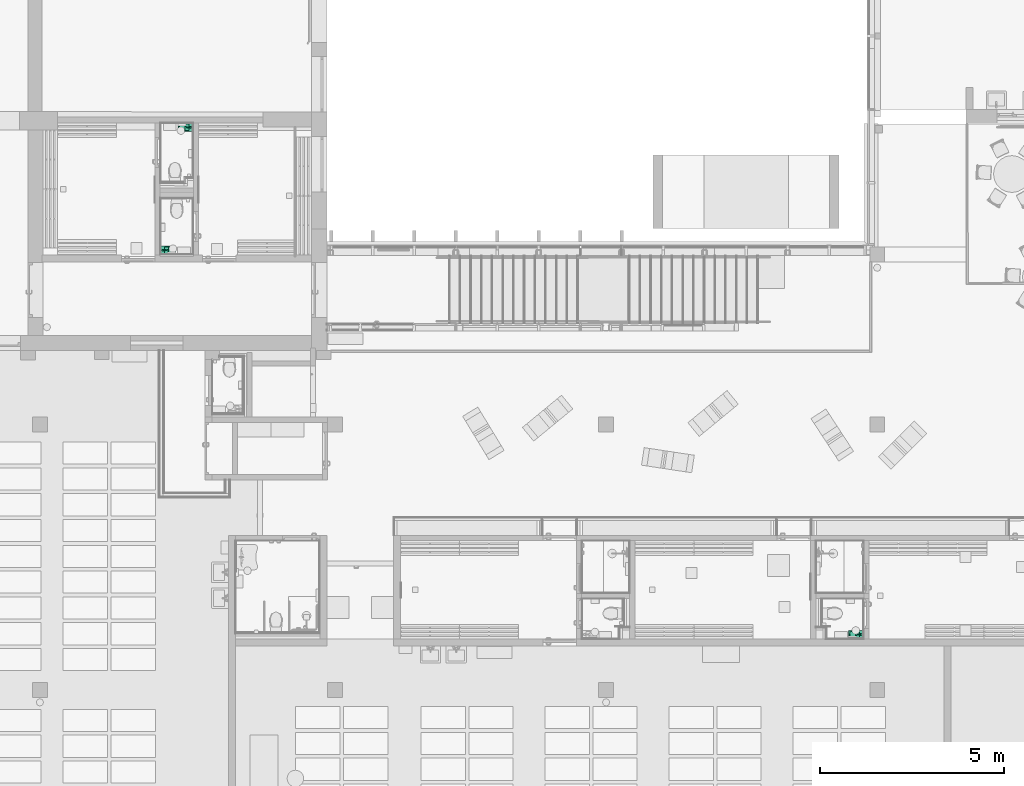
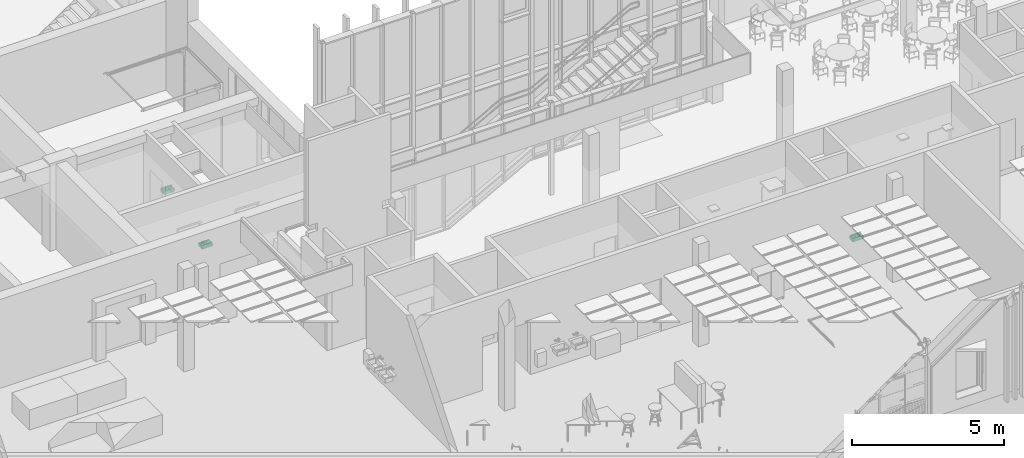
# One storey, part 258 of 301: 3 flow terminals.
"""IFC2X3 building model written with IfcOpenShell, lengths in millimetres."""

from ifc_helpers import new_model, entity, si_unit, converted_unit, derived_unit, money_unit, direction, frame, origin_with_axes, place, context, subcontext, project, spatial, open_shell, faceted_brep, surface_model, source, transform, mapped, type_object, element, save


model = new_model("IFC2X3")

# Units and contexts
model_context = context("Model", 3, precision=0.01, world=origin_with_axes(), true_north=direction((0.0, 1.0)))
body_context = subcontext(model_context, "Body", "Model", "MODEL_VIEW")
ifc_project = project(units=[si_unit("LENGTHUNIT", "METRE", prefix="MILLI"), si_unit("AREAUNIT", "SQUARE_METRE"), si_unit("VOLUMEUNIT", "CUBIC_METRE"), converted_unit("PLANEANGLEUNIT", "DEGREE", entity("IfcPlaneAngleMeasure", 0.0174532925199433), si_unit("PLANEANGLEUNIT", "RADIAN"), dimensions=[0, 0, 0, 0, 0, 0, 0]), money_unit("EUR"), converted_unit("TIMEUNIT", "Year", entity("IfcTimeMeasure", 31557600.0), si_unit("TIMEUNIT", "SECOND"), dimensions=[0, 0, 1, 0, 0, 0, 0]), si_unit("MASSUNIT", "GRAM", prefix="KILO"), si_unit("THERMODYNAMICTEMPERATUREUNIT", "DEGREE_CELSIUS"), si_unit("LUMINOUSINTENSITYUNIT", "LUMEN"), si_unit("ENERGYUNIT", "JOULE", prefix="MEGA"), derived_unit("THERMALCONDUCTANCEUNIT", [(si_unit("POWERUNIT", "WATT"), 1), (si_unit("LENGTHUNIT", "METRE"), -1), (si_unit("THERMODYNAMICTEMPERATUREUNIT", "KELVIN"), -1)]), derived_unit("SPECIFICHEATCAPACITYUNIT", [(si_unit("ENERGYUNIT", "JOULE"), 1), (si_unit("MASSUNIT", "GRAM", prefix="KILO"), -1), (si_unit("THERMODYNAMICTEMPERATUREUNIT", "KELVIN"), -1)]), derived_unit("MASSDENSITYUNIT", [(si_unit("MASSUNIT", "GRAM", prefix="KILO"), 1), (si_unit("VOLUMEUNIT", "CUBIC_METRE"), -1)])], contexts=[model_context])

# Site, building, storey
site_placement = place(None, frame((0.0, 0.0, 8650.0), z_axis=(0.0, 0.0, 1.0), x_axis=(1.0, 0.0, 0.0)))
site = spatial("IfcSite", under=ifc_project, at=site_placement, Name="43301:001:0844", CompositionType="ELEMENT")
building_placement = place(site_placement, origin_with_axes())
building = spatial("IfcBuilding", under=site, at=building_placement, Name="Kuressaare Ametikooli tuulikute mehaanikute õppekorpus", CompositionType="ELEMENT")
storey_placement = place(building_placement, origin_with_axes())
storey = spatial("IfcBuildingStorey", under=building, at=storey_placement, Name="1.korrus", CompositionType="ELEMENT", Elevation=0.0)

# Flow terminals
sanitary_terminal_type = type_object("IfcSanitaryTerminalType", Name="Basin 27", PredefinedType="NOTDEFINED")
shared_shape = source(origin_with_axes(), body_context, "Body", "SurfaceModel", [
    faceted_brep([(-100.0, -400.0, 865.0), (-107.5, -397.9903810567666, 865.0), (-112.9903810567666, -392.5, 865.0), (-115.0, -385.0, 865.0), (-115.0, -14.99999999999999, 865.0), (-112.9903810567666, -7.500000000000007, 865.0), (-107.5, -2.009618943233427, 865.0), (-100.0, 0.0, 865.0), (100.0, 0.0, 865.0), (107.5, -2.009618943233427, 865.0), (112.9903810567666, -7.500000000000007, 865.0), (115.0, -14.99999999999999, 865.0), (115.0, -385.0, 865.0), (112.9903810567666, -392.5, 865.0), (107.5, -397.9903810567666, 865.0), (100.0, -400.0, 865.0), (85.0, -370.0, 865.0), (85.0, -110.0, 865.0), (-85.0, -110.0, 865.0), (-85.0, -370.0, 865.0), (-100.0000003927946, -400.0000003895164, 995.0), (-107.4999997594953, -397.9903813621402, 995.0), (-112.9903810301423, -392.5000000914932, 995.0), (-115.0000000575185, -384.99999979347, 995.0), (-115.0000000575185, -14.99999968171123, 995.0), (-112.9903810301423, -7.500000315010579, 995.0), (-107.4999997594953, -2.009619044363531, 995.0), (-100.0000003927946, -1.698735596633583e-08, 995.0), (99.99999979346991, -1.698735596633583e-08, 995.0), (107.5000000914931, -2.009619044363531, 995.0), (112.9903813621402, -7.500000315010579, 995.0), (115.0000003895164, -14.99999968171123, 995.0), (115.0000003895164, -384.99999979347, 995.0), (112.9903813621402, -392.5000000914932, 995.0), (107.5000000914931, -397.9903813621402, 995.0), (99.99999979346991, -400.0000003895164, 995.0), (85.0, -110.0, 999.9999996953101), (85.0, -370.0, 999.9999996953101), (-85.0, -110.0, 999.9999996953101), (-85.0, -370.0, 999.9999996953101), (-99.97757064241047, -399.8296295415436, 996.2940952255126), (-107.4118093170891, -397.8376310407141, 996.2940952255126), (-112.8376307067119, -392.4118096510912, 996.2940952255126), (-114.8296292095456, -384.9775700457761, 996.2940952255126), (-114.8296292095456, -15.02242943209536, 996.2940952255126), (-112.8376307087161, -7.588190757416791, 996.2940952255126), (-107.4118093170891, -2.162369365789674, 996.2940952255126), (-99.97757064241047, -0.1703708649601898, 996.2940952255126), (99.97757004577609, -0.1703708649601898, 996.2940952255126), (107.4118096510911, -2.162369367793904, 996.2940952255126), (112.837631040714, -7.588190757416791, 996.2940952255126), (114.8296295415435, -15.02242943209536, 996.2940952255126), (114.8296295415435, -384.9775700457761, 996.2940952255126), (112.8376310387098, -392.4118096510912, 996.2940952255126), (107.4118096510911, -397.8376310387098, 996.2940952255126), (99.97757004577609, -399.8296295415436, 996.2940952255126), (99.34173767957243, -4.999997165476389, 999.9999996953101), (-99.34173819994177, -4.999997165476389, 999.9999996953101), (-104.9118107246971, -6.492493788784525, 999.9999996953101), (-108.5075062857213, -10.08818934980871, 999.9999996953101), (-110.0000029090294, -15.65826187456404, 999.9999996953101), (-110.0000029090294, -384.3417376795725, 999.9999996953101), (-108.5075062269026, -389.9118111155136, 999.9999996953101), (-104.9118107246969, -393.5075066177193, 999.9999996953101), (-99.34173819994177, -395.0000032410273, 999.9999996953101), (99.34173767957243, -395.0000032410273, 999.9999996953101), (104.9118111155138, -393.5075065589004, 999.9999996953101), (108.5075065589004, -389.9118111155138, 999.9999996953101), (110.0000032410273, -384.3417376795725, 999.9999996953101), (110.0000032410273, -15.65826187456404, 999.9999996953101), (108.5075066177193, -10.08818934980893, 999.9999996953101), (104.9118111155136, -6.492493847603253, 999.9999996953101), (-99.80719978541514, -398.5355345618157, 998.5355339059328), (-106.741936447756, -396.6773772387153, 998.5355339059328), (-111.6773768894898, -391.7419367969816, 998.5355339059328), (-113.5355342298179, -384.807199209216, 998.5355339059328), (-113.5355342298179, -15.1928002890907, 998.5355339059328), (-111.6773769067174, -8.258063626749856, 998.5355339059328), (-106.741936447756, -3.322623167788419, 998.5355339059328), (-99.80719978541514, -1.464465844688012, 998.5355339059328), (99.80719920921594, -1.464465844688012, 998.5355339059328), (106.7419367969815, -3.322623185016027, 998.5355339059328), (111.6773772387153, -8.258063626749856, 998.5355339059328), (113.5355345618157, -15.1928002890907, 998.5355339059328), (113.5355345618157, -384.807199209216, 998.5355339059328), (111.6773772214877, -391.7419367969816, 998.5355339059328), (106.7419367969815, -396.6773772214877, 998.5355339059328), (99.80719920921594, -398.5355345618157, 998.5355339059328), (99.51210824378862, -3.70590425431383, 999.8296291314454), (-99.5121087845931, -3.70590425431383, 999.8296291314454), (-105.581682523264, -5.332241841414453, 999.8296291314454), (-109.6677582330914, -9.41831755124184, 999.8296291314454), (-111.294095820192, -15.48789128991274, 999.8296291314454), (-111.294095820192, -384.5121082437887, 999.8296291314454), (-109.667758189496, -390.5816828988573, 999.8296291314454), (-105.581682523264, -394.6677585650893, 999.8296291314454), (-99.5121087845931, -396.2940961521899, 999.8296291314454), (99.51210824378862, -396.2940961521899, 999.8296291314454), (105.5816828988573, -394.667758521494, 999.8296291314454), (109.6677585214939, -390.5816828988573, 999.8296291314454), (111.2940961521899, -384.5121082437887, 999.8296291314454), (111.2940961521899, -15.48789128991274, 999.8296291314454), (109.6677585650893, -9.41831755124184, 999.8296291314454), (105.5816828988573, -5.332241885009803, 999.8296291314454)], [[[0, 1, 2, 3, 4, 5, 6, 7, 8, 9, 10, 11, 12, 13, 14, 15], [16, 17, 18, 19]], [[1, 0, 20, 21]], [[2, 1, 21, 22]], [[3, 2, 22, 23]], [[4, 3, 23, 24]], [[5, 4, 24, 25]], [[6, 5, 25, 26]], [[7, 6, 26, 27]], [[8, 7, 27, 28]], [[9, 8, 28, 29]], [[10, 9, 29, 30]], [[11, 10, 30, 31]], [[12, 11, 31, 32]], [[13, 12, 32, 33]], [[14, 13, 33, 34]], [[15, 14, 34, 35]], [[0, 15, 35, 20]], [[36, 17, 16, 37]], [[38, 18, 17, 36]], [[39, 19, 18, 38]], [[37, 16, 19, 39]], [[21, 20, 40, 41]], [[22, 21, 41, 42]], [[23, 22, 42, 43]], [[24, 23, 43, 44]], [[25, 24, 44, 45]], [[26, 25, 45, 46]], [[27, 26, 46, 47]], [[28, 27, 47, 48]], [[29, 28, 48, 49]], [[30, 29, 49, 50]], [[31, 30, 50, 51]], [[32, 31, 51, 52]], [[33, 32, 52, 53]], [[34, 33, 53, 54]], [[35, 34, 54, 55]], [[20, 35, 55, 40]], [[56, 57, 58, 59, 60, 61, 62, 63, 64, 65, 66, 67, 68, 69, 70, 71], [37, 39, 38, 36]], [[41, 40, 72, 73]], [[42, 41, 73, 74]], [[43, 42, 74, 75]], [[44, 43, 75, 76]], [[45, 44, 76, 77]], [[46, 45, 77, 78]], [[47, 46, 78, 79]], [[48, 47, 79, 80]], [[49, 48, 80, 81]], [[50, 49, 81, 82]], [[51, 50, 82, 83]], [[52, 51, 83, 84]], [[53, 52, 84, 85]], [[54, 53, 85, 86]], [[55, 54, 86, 87]], [[40, 55, 87, 72]], [[88, 89, 57, 56]], [[89, 90, 58, 57]], [[90, 91, 59, 58]], [[91, 92, 60, 59]], [[92, 93, 61, 60]], [[93, 94, 62, 61]], [[94, 95, 63, 62]], [[95, 96, 64, 63]], [[96, 97, 65, 64]], [[97, 98, 66, 65]], [[98, 99, 67, 66]], [[99, 100, 68, 67]], [[100, 101, 69, 68]], [[101, 102, 70, 69]], [[102, 103, 71, 70]], [[103, 88, 56, 71]], [[73, 72, 96, 95]], [[74, 73, 95, 94]], [[75, 74, 94, 93]], [[76, 75, 93, 92]], [[77, 76, 92, 91]], [[78, 77, 91, 90]], [[79, 78, 90, 89]], [[80, 79, 89, 88]], [[81, 80, 88, 103]], [[82, 81, 103, 102]], [[83, 82, 102, 101]], [[84, 83, 101, 100]], [[85, 84, 100, 99]], [[86, 85, 99, 98]], [[87, 86, 98, 97]], [[72, 87, 97, 96]]]),
    faceted_brep([(85.0, -370.0, 865.0), (-85.0, -370.0, 865.0), (-85.0, -110.0, 865.0), (85.0, -110.0, 865.0), (-12.49999999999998, -210.733635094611, 865.0), (0.0, -214.083, 865.0), (12.50000000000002, -210.733635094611, 865.0), (21.65063509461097, -201.583, 865.0), (25.0, -189.083, 865.0), (21.65063509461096, -176.583, 865.0), (12.49999999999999, -167.4323649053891, 865.0), (0.0, -164.083, 865.0), (-12.50000000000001, -167.4323649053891, 865.0), (-21.65063509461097, -176.583, 865.0), (-25.0, -189.083, 865.0), (-21.65063509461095, -201.583, 865.0), (42.5, -370.0, 1000.0), (28.33333333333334, -370.0, 1000.0), (14.16666666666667, -370.0, 1000.0), (0.0, -370.0, 1000.0), (-14.16666666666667, -370.0, 1000.0), (-28.33333333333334, -370.0, 1000.0), (-42.49999999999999, -370.0, 1000.0), (-56.66666666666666, -370.0, 1000.0), (-70.83333333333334, -370.0, 1000.0), (-85.0, -370.0, 1000.0), (85.0, -370.0, 1000.0), (70.83333333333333, -370.0, 1000.0), (56.66666666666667, -370.0, 1000.0), (-85.0, -214.0, 972.2499999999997), (-85.0, -162.0, 972.2499999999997), (-85.0, -110.0, 972.2499999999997), (-85.0, -318.0, 1000.0), (-85.0, -266.0, 999.9999999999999), (-42.49999999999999, -110.0, 911.2166184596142), (-28.33333333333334, -110.0, 904.7939613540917), (-14.16666666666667, -110.0, 901.173124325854), (0.0, -110.0, 900.0), (14.16666666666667, -110.0, 901.173124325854), (28.33333333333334, -110.0, 904.7939613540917), (42.5, -110.0, 911.2166184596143), (56.66666666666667, -110.0, 921.2681999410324), (70.83333333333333, -110.0, 937.133628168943), (85.0, -110.0, 972.25), (-70.83333333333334, -110.0, 937.1336281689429), (-56.66666666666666, -110.0, 921.2681999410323), (85.0, -266.0, 1000.0), (85.0, -318.0, 1000.0), (85.0, -162.0, 972.25), (85.0, -214.0, 972.25), (-0.3097602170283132, -214.0, 900.0256508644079), (0.0, -214.083, 900.0751753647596), (-12.49999999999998, -210.733635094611, 901.0351096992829), (0.02107381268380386, -214.0773532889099, 900.0716455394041), (0.3097602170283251, -214.0, 900.0256508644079), (12.50000000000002, -210.733635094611, 901.035109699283), (14.16666666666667, -209.0669684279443, 901.173124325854), (21.65063509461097, -201.583, 903.0859405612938), (25.0, -189.083, 903.9419997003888), (21.65063509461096, -176.583, 903.0859405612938), (12.49999999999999, -167.4323649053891, 901.035109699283), (14.16666666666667, -169.0990315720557, 901.173124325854), (0.0, -164.083, 900.0), (-12.50000000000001, -167.4323649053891, 901.035109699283), (-21.65063509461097, -176.583, 903.0859405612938), (-14.16666666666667, -169.0990315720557, 901.173124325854), (-25.0, -189.083, 903.9419997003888), (-21.65063509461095, -201.583, 903.0859405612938), (-14.16666666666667, -209.0669684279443, 901.173124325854), (28.33333333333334, -318.0, 979.9130117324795), (14.16666666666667, -318.0, 978.1503189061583), (0.0, -318.0, 977.5667630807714), (-14.16666666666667, -318.0, 978.1503189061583), (-28.33333333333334, -318.0, 979.9130117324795), (-42.49999999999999, -318.0, 982.8921917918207), (-56.66666666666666, -318.0, 987.1546857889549), (-70.83333333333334, -318.0, 992.8049756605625), (70.83333333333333, -318.0, 992.8049756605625), (56.66666666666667, -318.0, 987.1546857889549), (42.5, -318.0, 982.8921917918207), (-70.83333333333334, -214.0, 937.1336281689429), (-70.83333333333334, -162.0, 937.1336281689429), (-70.83333333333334, -266.0, 978.92400992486), (-42.49999999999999, -162.0, 911.2166184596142), (-28.33333333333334, -162.0, 904.7939613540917), (-14.16666666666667, -162.0, 901.173124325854), (0.0, -162.0, 900.0), (14.16666666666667, -162.0, 901.173124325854), (28.33333333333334, -162.0, 904.7939613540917), (42.5, -162.0, 911.2166184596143), (56.66666666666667, -162.0, 921.2681999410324), (70.83333333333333, -162.0, 937.133628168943), (-56.66666666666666, -162.0, 921.2681999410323), (70.83333333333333, -266.0, 978.92400992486), (70.83333333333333, -214.0, 937.133628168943), (-14.16666666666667, -214.0, 901.173124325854), (0.0, -266.0, 947.0978188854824), (14.16666666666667, -266.0, 948.1630206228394), (14.16666666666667, -214.0, 901.173124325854), (28.33333333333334, -214.0, 904.7939613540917), (-28.33333333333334, -214.0, 904.7939613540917), (-56.66666666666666, -214.0, 921.2681999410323), (-42.49999999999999, -214.0, 911.2166184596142), (42.5, -214.0, 911.2166184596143), (56.66666666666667, -214.0, 921.2681999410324), (-14.16666666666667, -266.0, 948.1630206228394), (28.33333333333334, -266.0, 951.4339022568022), (-28.33333333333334, -266.0, 951.4339022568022), (-42.49999999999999, -266.0, 957.1657026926), (-56.66666666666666, -266.0, 965.9137620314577), (56.66666666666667, -266.0, 965.9137620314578), (42.5, -266.0, 957.1657026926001)], [[[0, 1, 2, 3], [4, 5, 6, 7, 8, 9, 10, 11, 12, 13, 14, 15]], [[16, 17, 18, 19, 20, 21, 22, 23, 24, 25, 1, 0, 26, 27, 28]], [[29, 30, 31, 2, 1, 25, 32, 33]], [[34, 35, 36, 37, 38, 39, 40, 41, 42, 43, 3, 2, 31, 44, 45]], [[46, 47, 26, 0, 3, 43, 48, 49]], [[50, 51, 5, 4, 52]], [[53, 54, 55, 6, 5, 51]], [[56, 57, 7, 6, 55]], [[58, 8, 7, 57]], [[59, 9, 8, 58]], [[60, 10, 9, 59, 61]], [[62, 11, 10, 60]], [[63, 12, 11, 62]], [[64, 13, 12, 63, 65]], [[66, 14, 13, 64]], [[67, 15, 14, 66]], [[68, 52, 4, 15, 67]], [[16, 69, 17]], [[17, 70, 18]], [[18, 71, 19]], [[19, 72, 20]], [[20, 73, 21]], [[21, 74, 22]], [[22, 75, 23]], [[23, 76, 24]], [[24, 32, 25]], [[26, 77, 27]], [[27, 78, 28]], [[28, 79, 16]], [[29, 80, 81, 30]], [[30, 81, 44, 31]], [[76, 33, 32]], [[82, 29, 33]], [[83, 84, 35, 34]], [[84, 85, 36, 35]], [[85, 86, 37, 36]], [[86, 87, 38, 37]], [[87, 88, 39, 38]], [[88, 89, 40, 39]], [[89, 90, 41, 40]], [[90, 91, 42, 41]], [[91, 48, 43, 42]], [[81, 92, 45, 44]], [[92, 83, 34, 45]], [[47, 46, 93]], [[26, 47, 77]], [[94, 49, 48, 91]], [[46, 49, 94]], [[50, 95, 96, 51]], [[52, 68, 95, 50]], [[53, 97, 98, 54]], [[55, 54, 98, 56]], [[51, 96, 97, 53]], [[59, 58, 57, 56, 98, 99, 88, 87, 61]], [[60, 61, 87, 86, 62]], [[63, 62, 86, 85, 65]], [[65, 85, 84, 100, 95, 68, 67, 66, 64]], [[16, 79, 69]], [[17, 69, 70]], [[18, 70, 71]], [[19, 71, 72]], [[20, 72, 73]], [[21, 73, 74]], [[22, 74, 75]], [[23, 75, 76]], [[24, 76, 32]], [[27, 77, 78]], [[28, 78, 79]], [[82, 80, 29]], [[80, 101, 92, 81]], [[76, 82, 33]], [[102, 100, 84, 83]], [[99, 103, 89, 88]], [[103, 104, 90, 89]], [[104, 94, 91, 90]], [[101, 102, 83, 92]], [[46, 94, 93]], [[47, 93, 77]], [[96, 95, 105]], [[106, 98, 97]], [[70, 97, 96]], [[106, 99, 98]], [[105, 95, 100]], [[79, 106, 69]], [[69, 97, 70]], [[70, 96, 71]], [[71, 105, 72]], [[72, 107, 73]], [[73, 108, 74]], [[74, 109, 75]], [[75, 82, 76]], [[77, 110, 78]], [[78, 111, 79]], [[109, 80, 82]], [[109, 101, 80]], [[107, 100, 102]], [[111, 103, 99]], [[110, 104, 103]], [[93, 94, 104]], [[108, 102, 101]], [[77, 93, 110]], [[71, 96, 105]], [[69, 106, 97]], [[111, 99, 106]], [[105, 100, 107]], [[79, 111, 106]], [[72, 105, 107]], [[73, 107, 108]], [[74, 108, 109]], [[75, 109, 82]], [[78, 110, 111]], [[108, 101, 109]], [[107, 102, 108]], [[110, 103, 111]], [[93, 104, 110]]]),
    faceted_brep([(-21.65063509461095, -201.583, 900.0), (-25.0, -189.083, 900.0), (-21.65063509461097, -176.583, 900.0), (-12.50000000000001, -167.4323649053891, 900.0), (0.0, -164.083, 900.0), (12.49999999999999, -167.4323649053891, 900.0), (21.65063509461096, -176.583, 900.0), (25.0, -189.083, 900.0), (21.65063509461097, -201.583, 900.0), (12.50000000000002, -210.733635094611, 900.0), (0.0, -214.083, 900.0), (-12.49999999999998, -210.733635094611, 900.0), (-21.65063509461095, -201.583, 905.0), (-25.0, -189.083, 905.0), (-21.65063509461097, -176.583, 905.0), (-12.50000000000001, -167.4323649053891, 905.0), (0.0, -164.083, 905.0), (12.49999999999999, -167.4323649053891, 905.0), (21.65063509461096, -176.583, 905.0), (25.0, -189.083, 905.0), (21.65063509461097, -201.583, 905.0), (12.50000000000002, -210.733635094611, 905.0), (0.0, -214.083, 905.0), (-12.49999999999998, -210.733635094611, 905.0)], [[[0, 1, 2, 3, 4, 5, 6, 7, 8, 9, 10, 11]], [[0, 12, 13, 1]], [[1, 13, 14, 2]], [[2, 14, 15, 3]], [[3, 15, 16, 4]], [[4, 16, 17, 5]], [[5, 17, 18, 6]], [[6, 18, 19, 7]], [[7, 19, 20, 8]], [[8, 20, 21, 9]], [[9, 21, 22, 10]], [[10, 22, 23, 11]], [[11, 23, 12, 0]], [[12, 23, 22, 21, 20, 19, 18, 17, 16, 15, 14, 13]]]),
    surface_model("IfcShellBasedSurfaceModel", [(0.0, -189.083, 907.0), (6.310952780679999, -178.1521091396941, 906.4975737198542), (0.0, -176.46109443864, 906.4975737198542), (10.93089086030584, -182.77204721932, 906.4975737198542), (12.5, -167.4323649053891, 905.0), (0.0, -164.083, 905.0), (-6.310952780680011, -178.1521091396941, 906.4975737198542), (12.62190556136, -189.083, 906.4975737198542), (21.65063509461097, -176.583, 905.0), (-12.50000000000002, -167.4323649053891, 905.0), (-10.93089086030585, -182.77204721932, 906.4975737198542), (10.93089086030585, -195.39395278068, 906.4975737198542), (25.0, -189.083, 905.0), (-21.65063509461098, -176.583, 905.0), (-12.62190556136, -189.083, 906.4975737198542), (6.310952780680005, -200.0138908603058, 906.4975737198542), (21.65063509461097, -201.583, 905.0), (-25.0, -189.083, 905.0), (-10.93089086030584, -195.39395278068, 906.4975737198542), (0.0, -201.70490556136, 906.4975737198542), (12.50000000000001, -210.733635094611, 905.0), (-21.65063509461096, -201.583, 905.0), (-6.310952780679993, -200.0138908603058, 906.4975737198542), (0.0, -214.083, 905.0), (-12.49999999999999, -210.733635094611, 905.0)], [open_shell([[[0, 1, 2]], [[0, 3, 1]], [[1, 4, 5, 2]], [[0, 2, 6]], [[0, 7, 3]], [[3, 8, 4, 1]], [[2, 5, 9, 6]], [[0, 6, 10]], [[0, 11, 7]], [[7, 12, 8, 3]], [[6, 9, 13, 10]], [[0, 10, 14]], [[0, 15, 11]], [[11, 16, 12, 7]], [[10, 13, 17, 14]], [[0, 14, 18]], [[0, 19, 15]], [[15, 20, 16, 11]], [[14, 17, 21, 18]], [[0, 18, 22]], [[0, 22, 19]], [[19, 23, 20, 15]], [[18, 21, 24, 22]], [[22, 24, 23, 19]]])]),
    faceted_brep([(-12.50000000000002, -38.34936490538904, 1000.0), (-10.587322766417, -41.66221905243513, 1076.507089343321), (0.0, -38.79807692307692, 1075.961538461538), (0.0, -34.99999999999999, 1000.0), (-21.65063509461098, -47.50000000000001, 1000.0), (-18.27355038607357, -49.44976076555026, 1077.99043062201), (-21.0, -60.00000000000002, 1080.0), (-18.10034137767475, -70.45023696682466, 1081.990521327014), (-10.41410590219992, -78.03776053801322, 1083.435763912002), (0.0, -80.80188679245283, 1083.962264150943), (10.41410590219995, -78.0377605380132, 1083.435763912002), (18.10034137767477, -70.45023696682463, 1081.990521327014), (21.0, -59.99999999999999, 1080.0), (18.27355038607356, -49.44976076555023, 1077.99043062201), (10.58732276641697, -41.66221905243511, 1076.507089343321), (12.5, -38.34936490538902, 1000.0), (21.65063509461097, -47.49999999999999, 1000.0), (25.0, -59.99999999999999, 1000.0), (21.65063509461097, -72.5, 1000.0), (12.50000000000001, -81.65063509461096, 1000.0), (0.0, -84.99999999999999, 1000.0), (-12.49999999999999, -81.65063509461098, 1000.0), (-21.65063509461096, -72.50000000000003, 1000.0), (-25.0, -60.00000000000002, 1000.0)], [[[0, 1, 2, 3]], [[4, 5, 1, 0]], [[1, 5, 6, 7, 8, 9, 10, 11, 12, 13, 14, 2]], [[3, 2, 14, 15]], [[0, 3, 15, 16, 17, 18, 19, 20, 21, 22, 23, 4]], [[23, 6, 5, 4]], [[22, 7, 6, 23]], [[21, 8, 7, 22]], [[20, 9, 8, 21]], [[19, 10, 9, 20]], [[18, 11, 10, 19]], [[17, 12, 11, 18]], [[16, 13, 12, 17]], [[15, 14, 13, 16]]]),
    faceted_brep([(-9.000000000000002, -163.0, 1035.0), (-9.000000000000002, -163.0, 1045.0), (-7.794228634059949, -158.5, 1045.0), (-7.794228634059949, -158.5, 1035.0), (-7.794228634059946, -167.5, 1035.0), (-7.794228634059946, -167.5, 1045.0), (-4.499999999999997, -170.79422863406, 1045.0), (0.0, -172.0, 1045.0), (4.500000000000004, -170.79422863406, 1045.0), (7.794228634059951, -167.5, 1045.0), (9.000000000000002, -163.0, 1045.0), (7.794228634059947, -158.5, 1045.0), (4.499999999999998, -155.2057713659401, 1045.0), (0.0, -154.0, 1045.0), (-4.500000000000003, -155.2057713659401, 1045.0), (-4.500000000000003, -155.2057713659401, 1035.0), (0.0, -154.0, 1035.0), (4.499999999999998, -155.2057713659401, 1035.0), (7.794228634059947, -158.5, 1035.0), (9.000000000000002, -163.0, 1035.0), (7.794228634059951, -167.5, 1035.0), (4.500000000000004, -170.79422863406, 1035.0), (0.0, -172.0, 1035.0), (-4.499999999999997, -170.79422863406, 1035.0)], [[[0, 1, 2, 3]], [[4, 5, 1, 0]], [[1, 5, 6, 7, 8, 9, 10, 11, 12, 13, 14, 2]], [[3, 2, 14, 15]], [[0, 3, 15, 16, 17, 18, 19, 20, 21, 22, 23, 4]], [[23, 6, 5, 4]], [[22, 7, 6, 23]], [[21, 8, 7, 22]], [[20, 9, 8, 21]], [[19, 10, 9, 20]], [[18, 11, 10, 19]], [[17, 12, 11, 18]], [[16, 13, 12, 17]], [[15, 14, 13, 16]]]),
    faceted_brep([(12.87171762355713, -39.74369617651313, 1060.0), (-1.019988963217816e-06, -36.00002168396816, 1060.0), (-12.87171934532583, -39.74369727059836, 1060.0), (-21.72780617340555, -49.80679647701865, 1060.0), (-23.80539974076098, -63.04990202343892, 1060.0), (-10.912, -164.3883, 1060.0), (-9.02891689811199, -169.2831346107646, 1060.0), (-5.093388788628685, -172.7496928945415, 1060.0), (-3.626798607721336e-05, -173.9999600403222, 1060.0), (5.093324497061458, -172.7497264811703, 1060.0), (9.02887546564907, -169.2831941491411, 1060.0), (10.9119908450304, -164.3883719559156, 1060.0), (23.8054, -63.04989999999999, 1060.0), (21.72780530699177, -49.80679463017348, 1060.0), (-11.00000000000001, -40.94744111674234, 1060.0), (0.0, -37.99999999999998, 1060.0), (11.0, -40.94744111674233, 1060.0), (19.05255888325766, -48.99999999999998, 1060.0), (22.00000000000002, -59.99999999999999, 1060.0), (19.05255888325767, -70.99999999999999, 1060.0), (11.00000000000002, -79.05255888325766, 1060.0), (0.0, -82.0, 1060.0), (-10.99999999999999, -79.05255888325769, 1060.0), (-19.05255888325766, -71.00000000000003, 1060.0), (-22.00000000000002, -60.0, 1060.0), (-19.05255888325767, -48.99999999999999, 1060.0), (12.87171762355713, -39.74369617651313, 1045.0), (-1.019988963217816e-06, -36.00002168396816, 1045.0), (-12.87171934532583, -39.74369727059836, 1045.0), (-21.72780617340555, -49.80679647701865, 1045.0), (-23.80539974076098, -63.04990202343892, 1045.0), (-10.912, -164.3883, 1045.0), (-9.02891689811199, -169.2831346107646, 1045.0), (-5.093388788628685, -172.7496928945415, 1045.0), (-3.626798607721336e-05, -173.9999600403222, 1045.0), (5.093324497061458, -172.7497264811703, 1045.0), (9.02887546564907, -169.2831941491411, 1045.0), (10.9119908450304, -164.3883719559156, 1045.0), (23.8054, -63.04989999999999, 1045.0), (21.72780530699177, -49.80679463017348, 1045.0), (0.0, -37.24999999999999, 1045.0), (-11.37500000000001, -40.297922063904, 1045.0), (11.375, -40.297922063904, 1045.0), (19.70207793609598, -48.62499999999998, 1045.0), (22.75000000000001, -59.99999999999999, 1045.0), (19.70207793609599, -71.375, 1045.0), (11.37500000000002, -79.70207793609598, 1045.0), (0.0, -82.75, 1045.0), (-11.37499999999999, -79.702077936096, 1045.0), (-19.70207793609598, -71.37500000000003, 1045.0), (-22.75000000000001, -60.0, 1045.0), (-19.70207793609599, -48.62499999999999, 1045.0)], [[[0, 1, 2, 3, 4, 5, 6, 7, 8, 9, 10, 11, 12, 13], [14, 15, 16, 17, 18, 19, 20, 21, 22, 23, 24, 25]], [[26, 27, 1, 0]], [[27, 28, 2, 1]], [[28, 29, 3, 2]], [[29, 30, 4, 3]], [[30, 31, 5, 4]], [[31, 32, 6, 5]], [[32, 33, 7, 6]], [[33, 34, 8, 7]], [[34, 35, 9, 8]], [[35, 36, 10, 9]], [[36, 37, 11, 10]], [[37, 38, 12, 11]], [[38, 39, 13, 12]], [[39, 26, 0, 13]], [[40, 15, 14, 41]], [[42, 16, 15, 40]], [[16, 42, 43, 17]], [[17, 43, 44, 18]], [[18, 44, 45, 19]], [[19, 45, 46, 20]], [[20, 46, 47, 21]], [[48, 22, 21, 47]], [[49, 23, 22, 48]], [[50, 24, 23, 49]], [[51, 25, 24, 50]], [[41, 14, 25, 51]], [[34, 33, 32, 31, 30, 29, 28, 27, 26, 39, 38, 37, 36, 35], [48, 47, 46, 45, 44, 43, 42, 40, 41, 51, 50, 49]]]),
    faceted_brep([(-23.893, -61.69256934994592, 1080.322394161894), (-23.893, -60.94412091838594, 1084.251748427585), (-21.29642141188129, -48.47683276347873, 1081.877026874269), (-21.29642141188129, -49.22528119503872, 1077.947672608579), (-20.94593649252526, -101.8367022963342, 1087.968895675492), (-20.94593649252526, -101.0882538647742, 1091.898249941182), (-17.66313911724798, -110.765918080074, 1093.74161455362), (-10.06143529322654, -117.7152976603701, 1095.065305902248), (0.0004426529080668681, -120.2371634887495, 1095.54566129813), (10.06221236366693, -117.7148809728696, 1095.0652265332), (17.66361794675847, -110.7651865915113, 1093.741475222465), (20.946, -101.0873864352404, 1091.898084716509), (23.89302047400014, -60.9438419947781, 1084.251695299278), (21.29629106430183, -48.47658415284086, 1081.876979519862), (12.4716815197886, -39.16035412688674, 1080.102459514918), (-0.0001423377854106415, -35.71958706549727, 1079.447075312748), (-12.47192457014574, -39.16049972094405, 1080.102487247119), (-14.0, -84.79235429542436, 1088.79426907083), (14.0, -84.79235429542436, 1088.79426907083), (14.0, -99.60798455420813, 1091.616293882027), (12.12435565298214, -106.4843545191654, 1092.926078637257), (7.000000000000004, -111.5182067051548, 1093.884907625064), (0.0, -113.3607244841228, 1094.235863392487), (-6.999999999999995, -111.5182067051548, 1093.884907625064), (-12.12435565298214, -106.4843545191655, 1092.926078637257), (-14.0, -99.60798455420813, 1091.616293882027), (-12.47192457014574, -39.90894815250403, 1076.173132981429), (-0.0001423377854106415, -36.46803549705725, 1075.517721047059), (12.4716815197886, -39.90880255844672, 1076.173105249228), (21.29629106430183, -49.22503258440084, 1077.947625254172), (23.89302047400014, -61.69229042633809, 1080.322341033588), (20.946, -101.8358348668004, 1087.968730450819), (17.66361794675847, -111.5136350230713, 1089.812120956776), (10.06221236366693, -118.4633294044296, 1091.13587226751), (0.0004426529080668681, -120.9856119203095, 1091.61630703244), (-10.06143529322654, -118.4637460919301, 1091.135951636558), (-17.66313911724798, -111.514366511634, 1089.81226028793), (-14.0, -85.54080272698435, 1084.86491480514), (-14.0, -100.3564329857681, 1087.686939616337), (-12.12435565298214, -107.2328029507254, 1088.996724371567), (-6.999999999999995, -112.2666551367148, 1089.955553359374), (0.0, -114.1091729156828, 1090.306509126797), (7.000000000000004, -112.2666551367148, 1089.955553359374), (12.12435565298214, -107.2328029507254, 1088.996724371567), (14.0, -100.3564329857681, 1087.686939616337), (14.0, -85.54080272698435, 1084.86491480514)], [[[0, 1, 2, 3]], [[4, 5, 1, 0]], [[1, 5, 6, 7, 8, 9, 10, 11, 12, 13, 14, 15, 16, 2], [17, 18, 19, 20, 21, 22, 23, 24, 25]], [[3, 2, 16, 26]], [[0, 3, 26, 27, 28, 29, 30, 31, 32, 33, 34, 35, 36, 4], [37, 38, 39, 40, 41, 42, 43, 44, 45]], [[36, 6, 5, 4]], [[35, 7, 6, 36]], [[34, 8, 7, 35]], [[33, 9, 8, 34]], [[32, 10, 9, 33]], [[31, 11, 10, 32]], [[30, 12, 11, 31]], [[29, 13, 12, 30]], [[28, 14, 13, 29]], [[27, 15, 14, 28]], [[26, 16, 15, 27]], [[45, 18, 17, 37]], [[44, 19, 18, 45]], [[43, 20, 19, 44]], [[42, 21, 20, 43]], [[41, 22, 21, 42]], [[40, 23, 22, 41]], [[39, 24, 23, 40]], [[38, 25, 24, 39]], [[37, 17, 25, 38]]]),
])
for number, where, z_axis, x_axis, name in (
    (1, (99139.54832566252, 28499.07093394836, -80.0), (0.0, 0.0, 1.0), (-5.369436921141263e-07, 0.9999999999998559, 0.0), "V2"),
    (2, (118195.2601610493, 18079.83753264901, 0.0), (0.0, 0.0, 1.0), (6.698636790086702e-07, -0.9999999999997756, 0.0), "V2"),
    (3, (100016.0636496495, 31829.01058726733, -80.0), (0.0, 0.0, 1.0), (0.001134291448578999, -0.999999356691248, 0.0), "V2"),
):
    element("IfcFlowTerminal", number, at=place(storey_placement, frame(where, z_axis=z_axis, x_axis=x_axis)), inside=storey, type_object=sanitary_terminal_type, Name=name, context=body_context, shape_type="MappedRepresentation", body=[
        mapped(shared_shape, transform((0.0, 0.0, 0.0))),
    ])

save(model, "model.ifc")
